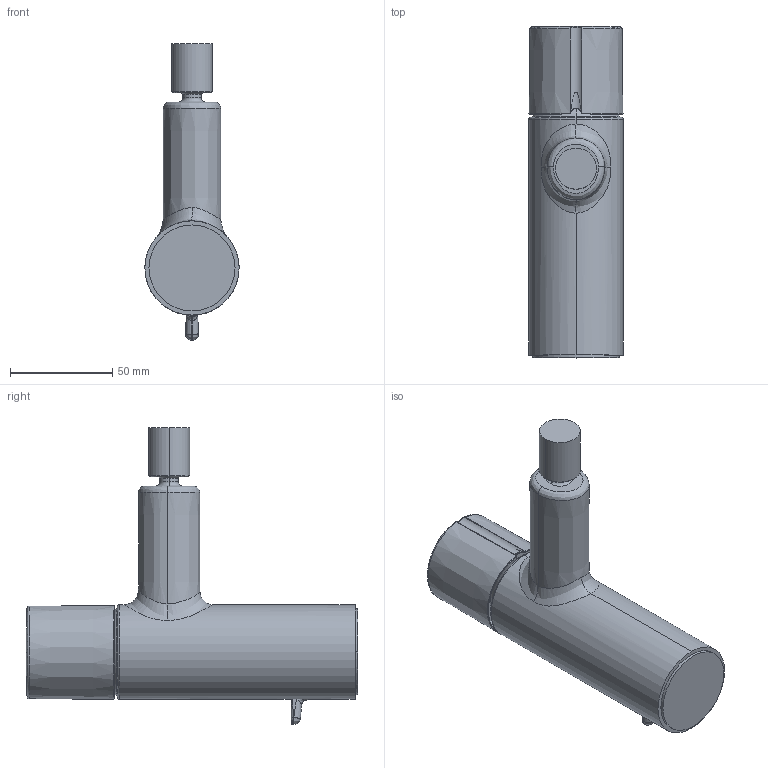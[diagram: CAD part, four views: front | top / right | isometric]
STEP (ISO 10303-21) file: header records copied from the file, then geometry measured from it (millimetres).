
FILE_DESCRIPTION((''),'2;1');
FILE_NAME('ORA_SW0003','2022-02-15T14:49:27',('KS894'),(''),'CREO PARAMETRIC BY PTC INC, 2018500','CREO PARAMETRIC BY PTC INC, 2018500','');
FILE_SCHEMA(('CONFIG_CONTROL_DESIGN'));
Length unit declared in the file: millimetre
Products named in the file (1): ORA_SW0003
Bounding box: 46 x 162.05 x 144.76 mm (x, y, z)
Volume: 300916.2 mm3; surface area: 38839.4 mm2
Topology: 2 solids, 2 shells, 132 faces, 318 edges, 194 vertices
Faces by surface type: plane 45, bspline 40, cylinder 17, torus 11, sphere 10, cone 9
Entity records: 7661 total; most frequent: CARTESIAN_POINT 4884, ORIENTED_EDGE 634, DIRECTION 480, EDGE_CURVE 317, AXIS2_PLACEMENT_3D 195, VERTEX_POINT 194, EDGE_LOOP 137, FACE_OUTER_BOUND 132
